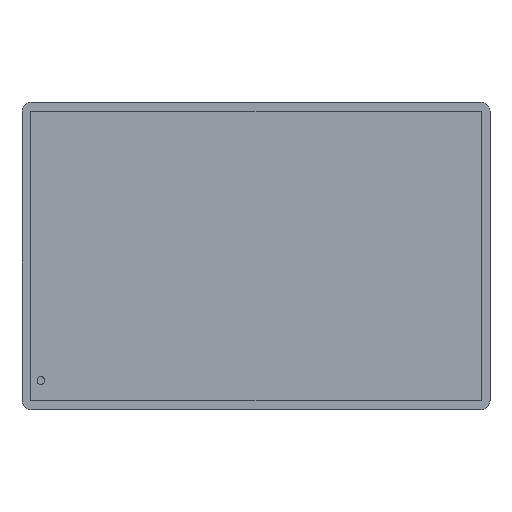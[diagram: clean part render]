
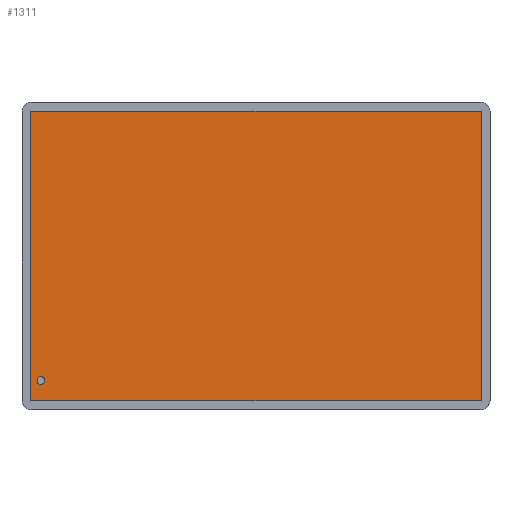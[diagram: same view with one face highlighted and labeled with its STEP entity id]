
A CAD part, top view. The second image highlights one B-rep face of the part: STEP entity #1311.
In plain terms, the highlighted planar face has unit normal (0, 0, 1).
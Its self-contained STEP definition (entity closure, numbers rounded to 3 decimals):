
#358 = PLANE('',#359);
#359 = AXIS2_PLACEMENT_3D('',#360,#361,#362);
#360 = CARTESIAN_POINT('',(-44.3,-28.49,2.2));
#361 = DIRECTION('',(0.,-1.,0.));
#362 = DIRECTION('',(1.,0.,0.));
#386 = PLANE('',#387);
#387 = AXIS2_PLACEMENT_3D('',#388,#389,#390);
#388 = CARTESIAN_POINT('',(-44.3,28.49,2.2));
#389 = DIRECTION('',(-1.,0.,0.));
#390 = DIRECTION('',(0.,-1.,0.));
#414 = PLANE('',#415);
#415 = AXIS2_PLACEMENT_3D('',#416,#417,#418);
#416 = CARTESIAN_POINT('',(44.3,28.49,2.2));
#417 = DIRECTION('',(0.,1.,-0.));
#418 = DIRECTION('',(-1.,0.,0.));
#440 = PLANE('',#441);
#441 = AXIS2_PLACEMENT_3D('',#442,#443,#444);
#442 = CARTESIAN_POINT('',(44.3,-28.49,2.2));
#443 = DIRECTION('',(1.,0.,0.));
#444 = DIRECTION('',(-0.,1.,0.));
#914 = VERTEX_POINT('',#915);
#915 = CARTESIAN_POINT('',(-44.3,-28.49,0.65));
#936 = EDGE_CURVE('',#914,#937,#939,.T.);
#937 = VERTEX_POINT('',#938);
#938 = CARTESIAN_POINT('',(44.3,-28.49,0.65));
#939 = SURFACE_CURVE('',#940,(#944,#951),.PCURVE_S1.);
#940 = LINE('',#941,#942);
#941 = CARTESIAN_POINT('',(-44.3,-28.49,0.65));
#942 = VECTOR('',#943,1.);
#943 = DIRECTION('',(1.,0.,0.));
#944 = PCURVE('',#358,#945);
#945 = DEFINITIONAL_REPRESENTATION('',(#946),#950);
#946 = LINE('',#947,#948);
#947 = CARTESIAN_POINT('',(0.,-1.55));
#948 = VECTOR('',#949,1.);
#949 = DIRECTION('',(1.,0.));
#950 = ( GEOMETRIC_REPRESENTATION_CONTEXT(2) 
PARAMETRIC_REPRESENTATION_CONTEXT() REPRESENTATION_CONTEXT('2D SPACE',''
  ) );
#951 = PCURVE('',#952,#957);
#952 = PLANE('',#953);
#953 = AXIS2_PLACEMENT_3D('',#954,#955,#956);
#954 = CARTESIAN_POINT('',(0.,0.,0.65));
#955 = DIRECTION('',(0.,0.,1.));
#956 = DIRECTION('',(1.,0.,-0.));
#957 = DEFINITIONAL_REPRESENTATION('',(#958),#962);
#958 = LINE('',#959,#960);
#959 = CARTESIAN_POINT('',(-44.3,-28.49));
#960 = VECTOR('',#961,1.);
#961 = DIRECTION('',(1.,0.));
#962 = ( GEOMETRIC_REPRESENTATION_CONTEXT(2) 
PARAMETRIC_REPRESENTATION_CONTEXT() REPRESENTATION_CONTEXT('2D SPACE',''
  ) );
#990 = EDGE_CURVE('',#937,#991,#993,.T.);
#991 = VERTEX_POINT('',#992);
#992 = CARTESIAN_POINT('',(44.3,28.49,0.65));
#993 = SURFACE_CURVE('',#994,(#998,#1005),.PCURVE_S1.);
#994 = LINE('',#995,#996);
#995 = CARTESIAN_POINT('',(44.3,-28.49,0.65));
#996 = VECTOR('',#997,1.);
#997 = DIRECTION('',(0.,1.,0.));
#998 = PCURVE('',#440,#999);
#999 = DEFINITIONAL_REPRESENTATION('',(#1000),#1004);
#1000 = LINE('',#1001,#1002);
#1001 = CARTESIAN_POINT('',(0.,-1.55));
#1002 = VECTOR('',#1003,1.);
#1003 = DIRECTION('',(1.,0.));
#1004 = ( GEOMETRIC_REPRESENTATION_CONTEXT(2) 
PARAMETRIC_REPRESENTATION_CONTEXT() REPRESENTATION_CONTEXT('2D SPACE',''
  ) );
#1005 = PCURVE('',#952,#1006);
#1006 = DEFINITIONAL_REPRESENTATION('',(#1007),#1011);
#1007 = LINE('',#1008,#1009);
#1008 = CARTESIAN_POINT('',(44.3,-28.49));
#1009 = VECTOR('',#1010,1.);
#1010 = DIRECTION('',(0.,1.));
#1011 = ( GEOMETRIC_REPRESENTATION_CONTEXT(2) 
PARAMETRIC_REPRESENTATION_CONTEXT() REPRESENTATION_CONTEXT('2D SPACE',''
  ) );
#1039 = EDGE_CURVE('',#991,#1040,#1042,.T.);
#1040 = VERTEX_POINT('',#1041);
#1041 = CARTESIAN_POINT('',(-44.3,28.49,0.65));
#1042 = SURFACE_CURVE('',#1043,(#1047,#1054),.PCURVE_S1.);
#1043 = LINE('',#1044,#1045);
#1044 = CARTESIAN_POINT('',(44.3,28.49,0.65));
#1045 = VECTOR('',#1046,1.);
#1046 = DIRECTION('',(-1.,0.,0.));
#1047 = PCURVE('',#414,#1048);
#1048 = DEFINITIONAL_REPRESENTATION('',(#1049),#1053);
#1049 = LINE('',#1050,#1051);
#1050 = CARTESIAN_POINT('',(0.,-1.55));
#1051 = VECTOR('',#1052,1.);
#1052 = DIRECTION('',(1.,0.));
#1053 = ( GEOMETRIC_REPRESENTATION_CONTEXT(2) 
PARAMETRIC_REPRESENTATION_CONTEXT() REPRESENTATION_CONTEXT('2D SPACE',''
  ) );
#1054 = PCURVE('',#952,#1055);
#1055 = DEFINITIONAL_REPRESENTATION('',(#1056),#1060);
#1056 = LINE('',#1057,#1058);
#1057 = CARTESIAN_POINT('',(44.3,28.49));
#1058 = VECTOR('',#1059,1.);
#1059 = DIRECTION('',(-1.,0.));
#1060 = ( GEOMETRIC_REPRESENTATION_CONTEXT(2) 
PARAMETRIC_REPRESENTATION_CONTEXT() REPRESENTATION_CONTEXT('2D SPACE',''
  ) );
#1088 = EDGE_CURVE('',#1040,#914,#1089,.T.);
#1089 = SURFACE_CURVE('',#1090,(#1094,#1101),.PCURVE_S1.);
#1090 = LINE('',#1091,#1092);
#1091 = CARTESIAN_POINT('',(-44.3,28.49,0.65));
#1092 = VECTOR('',#1093,1.);
#1093 = DIRECTION('',(0.,-1.,0.));
#1094 = PCURVE('',#386,#1095);
#1095 = DEFINITIONAL_REPRESENTATION('',(#1096),#1100);
#1096 = LINE('',#1097,#1098);
#1097 = CARTESIAN_POINT('',(0.,-1.55));
#1098 = VECTOR('',#1099,1.);
#1099 = DIRECTION('',(1.,0.));
#1100 = ( GEOMETRIC_REPRESENTATION_CONTEXT(2) 
PARAMETRIC_REPRESENTATION_CONTEXT() REPRESENTATION_CONTEXT('2D SPACE',''
  ) );
#1101 = PCURVE('',#952,#1102);
#1102 = DEFINITIONAL_REPRESENTATION('',(#1103),#1107);
#1103 = LINE('',#1104,#1105);
#1104 = CARTESIAN_POINT('',(-44.3,28.49));
#1105 = VECTOR('',#1106,1.);
#1106 = DIRECTION('',(0.,-1.));
#1107 = ( GEOMETRIC_REPRESENTATION_CONTEXT(2) 
PARAMETRIC_REPRESENTATION_CONTEXT() REPRESENTATION_CONTEXT('2D SPACE',''
  ) );
#1311 = ADVANCED_FACE('',(#1312,#1318),#952,.T.);
#1312 = FACE_BOUND('',#1313,.T.);
#1313 = EDGE_LOOP('',(#1314,#1315,#1316,#1317));
#1314 = ORIENTED_EDGE('',*,*,#936,.T.);
#1315 = ORIENTED_EDGE('',*,*,#990,.T.);
#1316 = ORIENTED_EDGE('',*,*,#1039,.T.);
#1317 = ORIENTED_EDGE('',*,*,#1088,.T.);
#1318 = FACE_BOUND('',#1319,.T.);
#1319 = EDGE_LOOP('',(#1320));
#1320 = ORIENTED_EDGE('',*,*,#1321,.T.);
#1321 = EDGE_CURVE('',#1322,#1322,#1324,.T.);
#1322 = VERTEX_POINT('',#1323);
#1323 = CARTESIAN_POINT('',(-41.55,-24.49,0.65));
#1324 = SURFACE_CURVE('',#1325,(#1330,#1341),.PCURVE_S1.);
#1325 = CIRCLE('',#1326,0.75);
#1326 = AXIS2_PLACEMENT_3D('',#1327,#1328,#1329);
#1327 = CARTESIAN_POINT('',(-42.3,-24.49,0.65));
#1328 = DIRECTION('',(0.,0.,-1.));
#1329 = DIRECTION('',(1.,0.,0.));
#1330 = PCURVE('',#952,#1331);
#1331 = DEFINITIONAL_REPRESENTATION('',(#1332),#1340);
#1332 = ( BOUNDED_CURVE() B_SPLINE_CURVE(2,(#1333,#1334,#1335,#1336,
#1337,#1338,#1339),.UNSPECIFIED.,.T.,.F.) B_SPLINE_CURVE_WITH_KNOTS((1,2
    ,2,2,2,1),(-2.094,0.,2.094,4.189,
6.283,8.378),.UNSPECIFIED.) CURVE() 
GEOMETRIC_REPRESENTATION_ITEM() RATIONAL_B_SPLINE_CURVE((1.,0.5,1.,0.5,
1.,0.5,1.)) REPRESENTATION_ITEM('') );
#1333 = CARTESIAN_POINT('',(-41.55,-24.49));
#1334 = CARTESIAN_POINT('',(-41.55,-25.789));
#1335 = CARTESIAN_POINT('',(-42.675,-25.14));
#1336 = CARTESIAN_POINT('',(-43.8,-24.49));
#1337 = CARTESIAN_POINT('',(-42.675,-23.84));
#1338 = CARTESIAN_POINT('',(-41.55,-23.191));
#1339 = CARTESIAN_POINT('',(-41.55,-24.49));
#1340 = ( GEOMETRIC_REPRESENTATION_CONTEXT(2) 
PARAMETRIC_REPRESENTATION_CONTEXT() REPRESENTATION_CONTEXT('2D SPACE',''
  ) );
#1341 = PCURVE('',#1342,#1347);
#1342 = CYLINDRICAL_SURFACE('',#1343,0.75);
#1343 = AXIS2_PLACEMENT_3D('',#1344,#1345,#1346);
#1344 = CARTESIAN_POINT('',(-42.3,-24.49,0.45));
#1345 = DIRECTION('',(-0.,-0.,-1.));
#1346 = DIRECTION('',(1.,0.,0.));
#1347 = DEFINITIONAL_REPRESENTATION('',(#1348),#1352);
#1348 = LINE('',#1349,#1350);
#1349 = CARTESIAN_POINT('',(-6.283,-0.2));
#1350 = VECTOR('',#1351,1.);
#1351 = DIRECTION('',(1.,-0.));
#1352 = ( GEOMETRIC_REPRESENTATION_CONTEXT(2) 
PARAMETRIC_REPRESENTATION_CONTEXT() REPRESENTATION_CONTEXT('2D SPACE',''
  ) );
